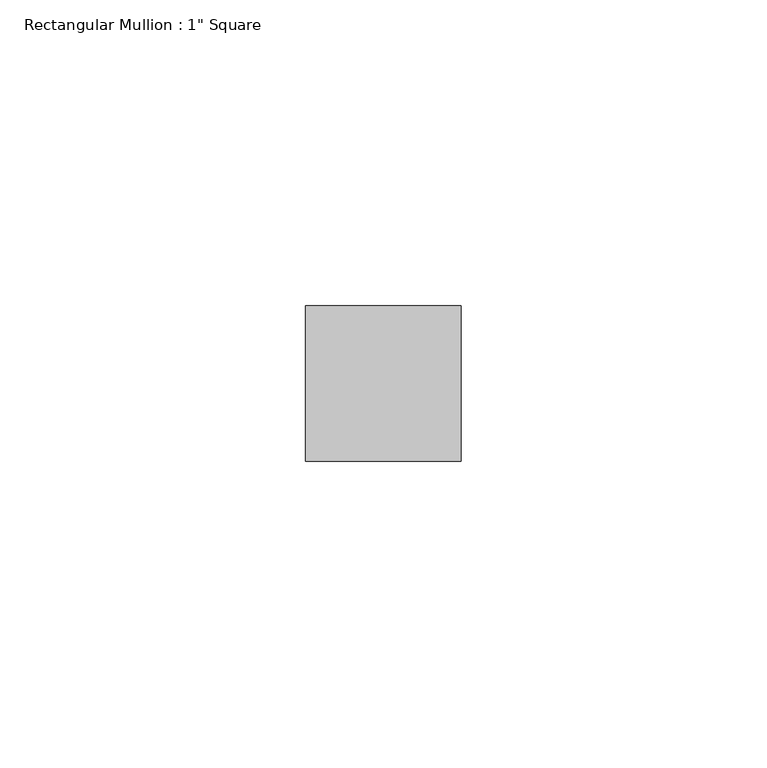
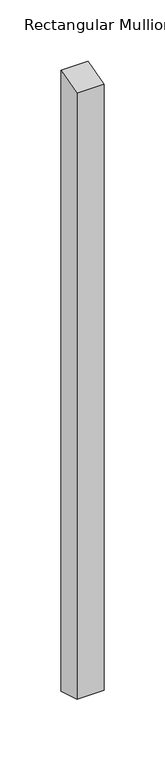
"""IFC4 building model written with IfcOpenShell, lengths in millimetres: member geometry."""

from ifc_helpers import new_model, si_unit, origin, place, context, project, spatial, faceted_brep, source, transform, mapped, element, save


def member_b79de73f(model_context):
    return source(origin(), model_context, "Body", "Brep", [
        faceted_brep([(-25.4, 12.7, 3.6830858), (0.0, 12.7, 3.7084187), (0.0, 12.7, -613.3084187), (-25.4, 12.7, -613.2830858), (-25.4, -12.7, -3.7337515), (-25.4, -12.7, -605.8662485), (0.0, -12.7, -3.7084187), (0.0, -12.7, -605.8915813)], [[[0, 1, 2, 3]], [[4, 0, 3, 5]], [[6, 4, 5, 7]], [[1, 6, 7, 2]], [[1, 0, 4, 6]], [[2, 7, 5, 3]]]),
    ])


if __name__ == "__main__":
    model = new_model("IFC4")
    model_context = context("Model", 3, world=origin())
    ifc_project = project(units=[si_unit("LENGTHUNIT", "METRE", prefix="MILLI")], contexts=[model_context])
    site = spatial("IfcSite", under=ifc_project)
    building = spatial("IfcBuilding", under=site)
    placement = place(None, origin())
    member_shape = member_b79de73f(model_context)
    element("IfcMember", 1, ObjectType="Rectangular Mullion : 1\" Square", at=placement, inside=building, context=model_context, shape_type="MappedRepresentation", body=[
        mapped(member_shape, transform((0.0, 0.0, 0.0), x_axis=(1.0, 0.0, 0.0), y_axis=(0.0, 1.0, 0.0), z_axis=(0.0, 0.0, 1.0))),
    ])
    save(model, "model.ifc")
